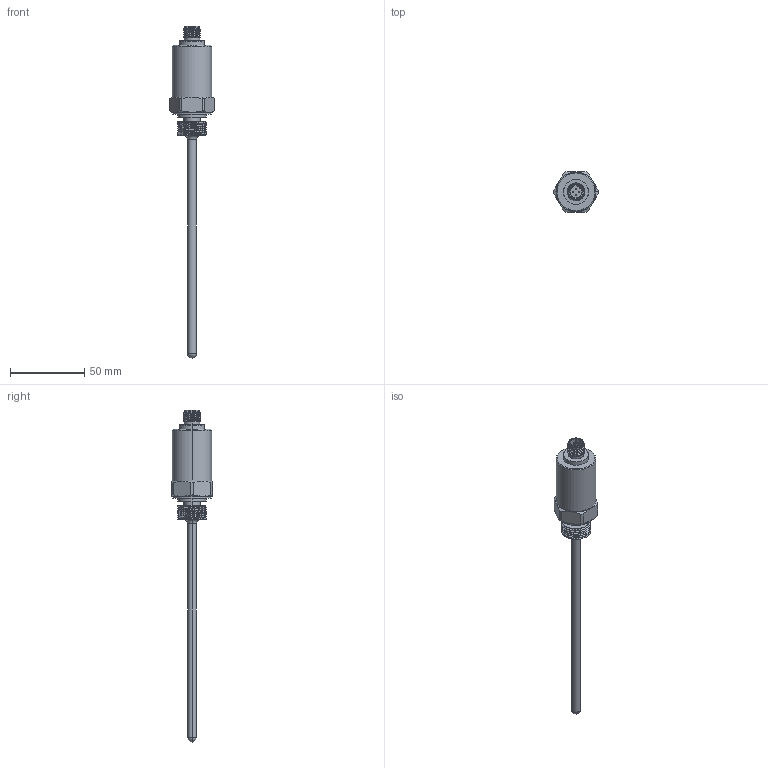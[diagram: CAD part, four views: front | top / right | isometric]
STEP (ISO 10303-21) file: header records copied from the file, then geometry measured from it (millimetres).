
FILE_DESCRIPTION (( 'STEP AP214' ), '1' );
FILE_NAME ('BTS1A34.STEP', '2025-03-11T07:30:25', ( '' ), ( '' ), 'SwSTEP 2.0', 'SolidWorks 2022', '' );
FILE_SCHEMA (( 'AUTOMOTIVE_DESIGN' ));
Length unit declared in the file: millimetre
Products named in the file (1): BTS1A34
Bounding box: 30.18 x 27 x 223.5 mm (x, y, z)
Surface area: 10639.6 mm2 (no closed solid volume)
Topology: 0 solids, 2 shells, 146 faces, 350 edges, 213 vertices
Faces by surface type: cylinder 53, plane 33, cone 24, torus 20, sphere 10, bspline 6
Entity records: 6892 total; most frequent: CARTESIAN_POINT 3415, ORIENTED_EDGE 666, DIRECTION 635, EDGE_CURVE 334, AXIS2_PLACEMENT_3D 275, VERTEX_POINT 207, EDGE_LOOP 162, ADVANCED_FACE 146
